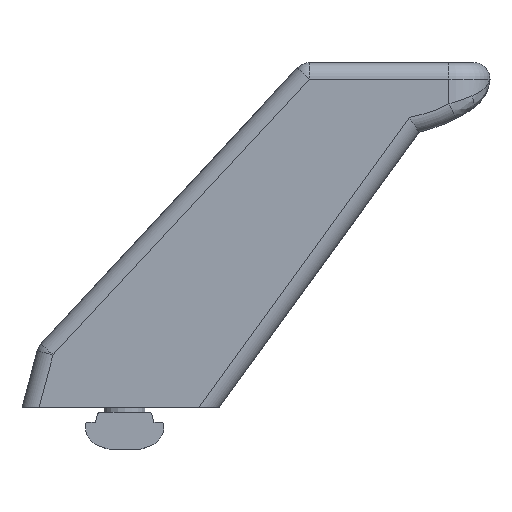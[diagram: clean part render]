
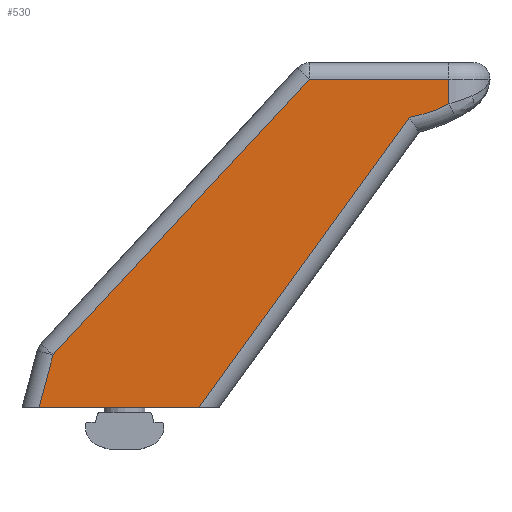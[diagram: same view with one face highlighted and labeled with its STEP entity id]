
A CAD part, front view. The second image highlights one B-rep face of the part: STEP entity #530.
In plain terms, the highlighted planar face has unit normal (0, -1, 0) as drawn and (0, 0, 1) by its records, which use the part's own axes.
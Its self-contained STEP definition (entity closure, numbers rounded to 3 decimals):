
#530=ADVANCED_FACE('',(#1204),#1205,.T.);
#1204=FACE_OUTER_BOUND('',#3357,.T.);
#1205=PLANE('',#3358);
#3357=EDGE_LOOP('',(#4557,#4558,#4559,#4560,#4561,#4562,#4563));
#3358=AXIS2_PLACEMENT_3D('',#4564,#4565,#4566);
#4557=ORIENTED_EDGE('',*,*,#6853,.T.);
#4558=ORIENTED_EDGE('',*,*,#6857,.T.);
#4559=ORIENTED_EDGE('',*,*,#6775,.F.);
#4560=ORIENTED_EDGE('',*,*,#6811,.T.);
#4561=ORIENTED_EDGE('',*,*,#6806,.T.);
#4562=ORIENTED_EDGE('',*,*,#6799,.T.);
#4563=ORIENTED_EDGE('',*,*,#6871,.T.);
#4564=CARTESIAN_POINT('',(31.8,53.0,140.0));
#4565=DIRECTION('',(0.0,0.0,1.0));
#4566=DIRECTION('',(1.0,0.0,0.0));
#6775=EDGE_CURVE('',#7939,#7650,#7941,.T.);
#6799=EDGE_CURVE('',#7967,#7971,#7973,.T.);
#6806=EDGE_CURVE('',#7980,#7967,#7983,.T.);
#6811=EDGE_CURVE('',#7939,#7980,#7988,.T.);
#6853=EDGE_CURVE('',#8040,#8043,#8045,.T.);
#6857=EDGE_CURVE('',#8043,#7650,#8049,.T.);
#6871=EDGE_CURVE('',#7971,#8040,#8066,.T.);
#7650=VERTEX_POINT('',#9270);
#7939=VERTEX_POINT('',#9730);
#7941=LINE('',#9732,#9733);
#7967=VERTEX_POINT('',#9778);
#7971=VERTEX_POINT('',#9783);
#7973=LINE('',#9785,#9786);
#7980=VERTEX_POINT('',#9793);
#7983=LINE('',#9797,#9798);
#7988=LINE('',#9803,#9804);
#8040=VERTEX_POINT('',#9890);
#8043=VERTEX_POINT('',#9894);
#8045=LINE('',#9909,#9910);
#8049=CIRCLE('',#9914,18.0);
#8066=LINE('',#9938,#9939);
#9270=CARTESIAN_POINT('',(40.0,36.976,140.0));
#9730=CARTESIAN_POINT('',(40.0,40.0,140.0));
#9732=CARTESIAN_POINT('',(40.0,42.0,140.0));
#9733=VECTOR('',#11606,1.0);
#9778=CARTESIAN_POINT('',(-8.215,6.4,140.0));
#9783=CARTESIAN_POINT('',(-9.929,0.0,140.0));
#9785=CARTESIAN_POINT('',(-10.068,-0.518,140.0));
#9786=VECTOR('',#11642,1.0);
#9793=CARTESIAN_POINT('',(23.0,40.0,140.0));
#9797=CARTESIAN_POINT('',(-8.215,6.4,140.0));
#9798=VECTOR('',#11653,1.0);
#9803=CARTESIAN_POINT('',(23.0,40.0,140.0));
#9804=VECTOR('',#11660,1.0);
#9890=CARTESIAN_POINT('',(9.528,0.0,140.0));
#9894=CARTESIAN_POINT('',(35.191,35.322,140.0));
#9909=CARTESIAN_POINT('',(34.74,34.702,140.0));
#9910=VECTOR('',#11717,1.0);
#9914=AXIS2_PLACEMENT_3D('',#11721,#11722,#11723);
#9938=CARTESIAN_POINT('',(-12.0,0.0,140.0));
#9939=VECTOR('',#11734,1.0);
#11606=DIRECTION('',(0.0,-1.0,0.0));
#11642=DIRECTION('',(-0.259,-0.966,0.0));
#11653=DIRECTION('',(-0.681,-0.733,0.0));
#11660=DIRECTION('',(-1.0,0.0,0.0));
#11717=DIRECTION('',(0.588,0.809,0.0));
#11721=CARTESIAN_POINT('',(31.8,53.0,140.0));
#11722=DIRECTION('',(0.0,0.0,1.0));
#11723=DIRECTION('',(1.0,0.0,0.0));
#11734=DIRECTION('',(1.0,0.0,0.0));
